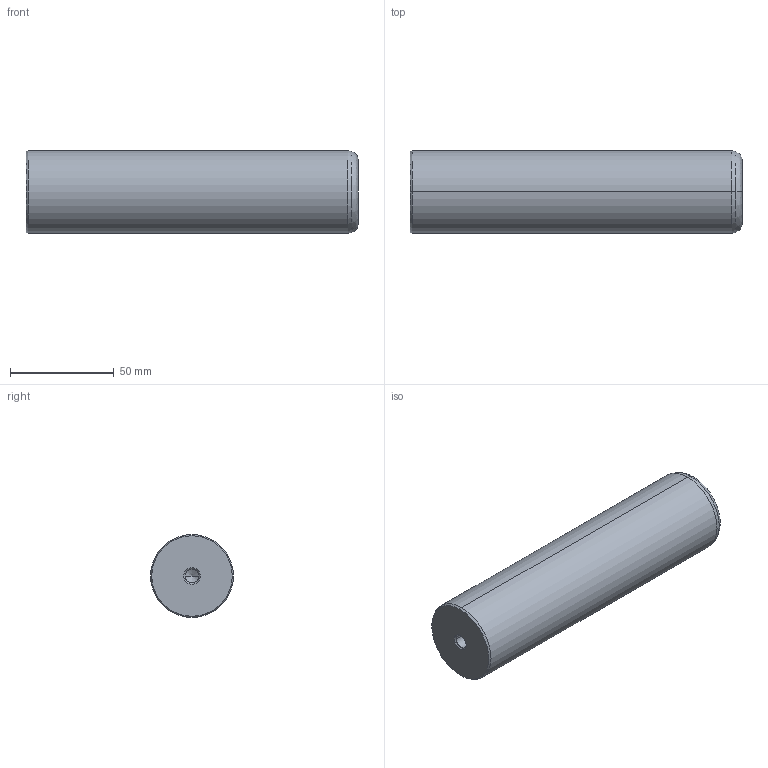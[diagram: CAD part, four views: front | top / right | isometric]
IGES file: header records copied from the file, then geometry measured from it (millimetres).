
Start section: START RECORD GO HERE.
Global section: file name: 720-40x160.igs; native system: DASSAULT SYSTEMES CATIA V5 R20 - www.3ds.com; preprocessor: CATIA Version 5 Release 20 ; author: Utente; organization: NB04-ASUS; date: 20201230.230143; units: millimetre
Bounding box: 160 x 40 x 40 mm (x, y, z)
Surface area: 23290.3 mm2 (no closed solid volume)
Topology: 0 solids, 0 shells, 22 faces, 108 edges, 104 vertices
Faces by surface type: revolution 20, plane 2
